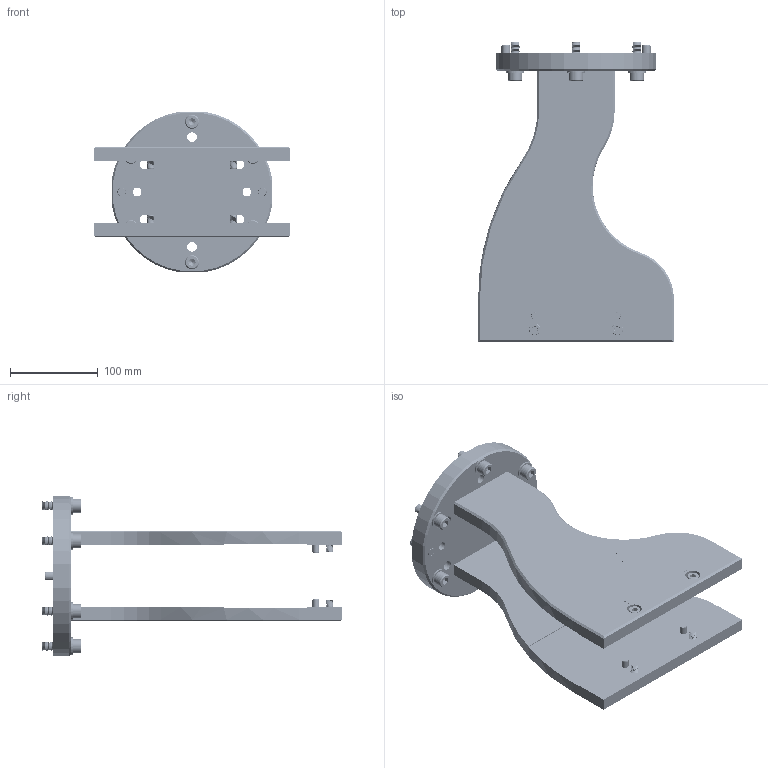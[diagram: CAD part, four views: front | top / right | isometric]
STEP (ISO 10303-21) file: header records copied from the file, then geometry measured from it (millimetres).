
FILE_DESCRIPTION (( 'STEP AP203' ), '1' );
FILE_NAME ('88001727_s.STEP', '2023-10-11T14:52:08', ( '' ), ( '' ), 'SwSTEP 2.0', 'SolidWorks 2022', '' );
FILE_SCHEMA (( 'CONFIG_CONTROL_DESIGN' ));
Products named in the file (1): 88001727_s
Bounding box: 223 x 341.95 x 183 mm (x, y, z)
Volume: 1870704.6 mm3; surface area: 337838.4 mm2
Topology: 43 solids, 43 shells, 3020 faces, 7420 edges, 4552 vertices
Faces by surface type: cylinder 1428, cone 804, plane 516, bspline 260, torus 12
Entity records: 110437 total; most frequent: CARTESIAN_POINT 45363, ORIENTED_EDGE 14792, DIRECTION 12282, EDGE_CURVE 7396, VERTEX_POINT 4552, AXIS2_PLACEMENT_3D 4495, LINE 3292, VECTOR 3292
